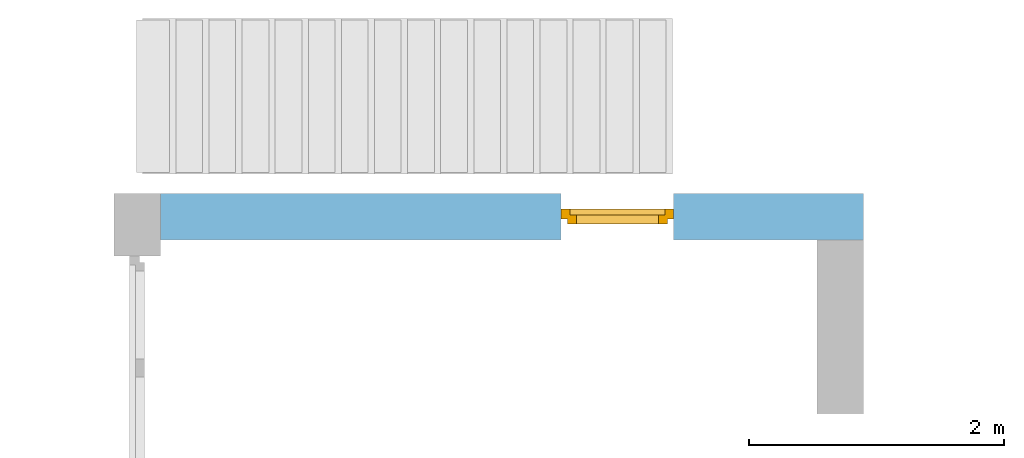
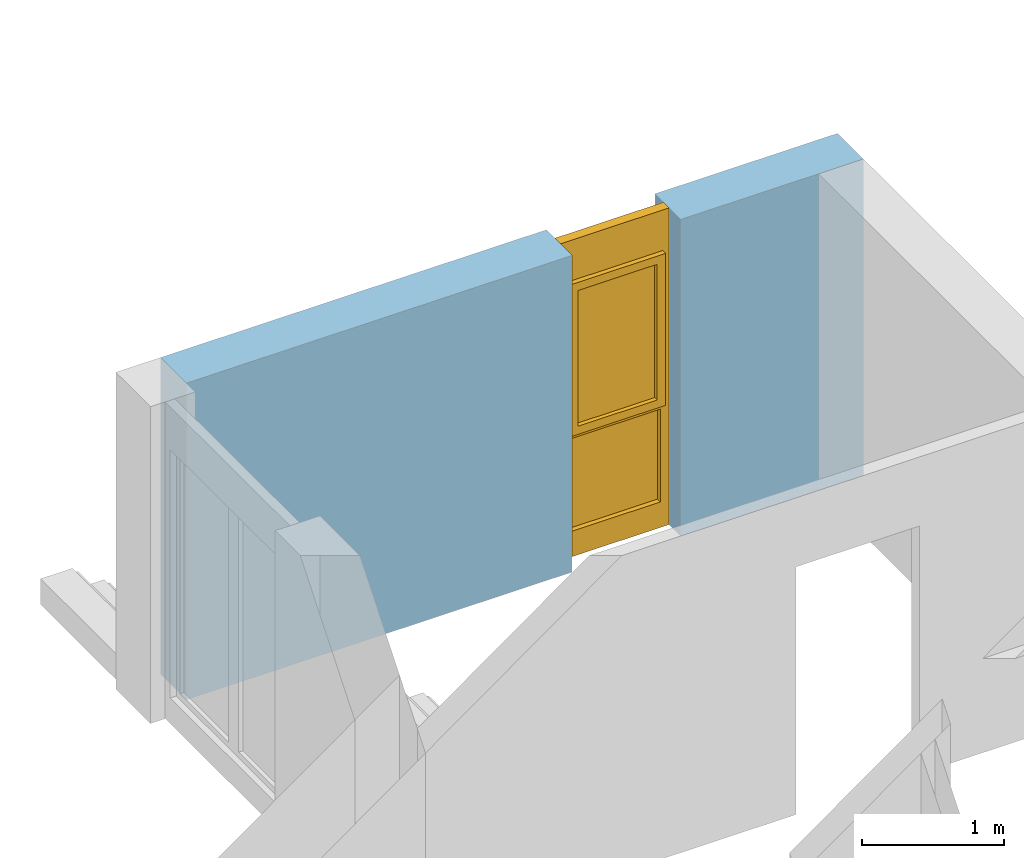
# One storey, part 21 of 41: 1 window, 1 opening, plus 1 element that does not belong to this part.
"""IFC2X3 building model written with IfcOpenShell, lengths in millimetres."""

from ifc_helpers import new_model, entity, si_unit, converted_unit, frame, frame_2d, origin, origin_with_axes, place, context, subcontext, project, spatial, rectangle, extrude, faceted_brep, material, layer, layer_set, layer_usage, type_object, element, fill, save


model = new_model("IFC2X3")

# Units and contexts
model_context = context("Model", 3, precision=1e-05, world=origin())
body_context = subcontext(model_context, "Body", "Model", "MODEL_VIEW")
ifc_project = project(units=[si_unit("LENGTHUNIT", "METRE", prefix="MILLI"), converted_unit("PLANEANGLEUNIT", "DEGREE", entity("IfcPlaneAngleMeasure", 0.0174532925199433), si_unit("PLANEANGLEUNIT", "RADIAN"), dimensions=[0, 0, 0, 0, 0, 0, 0]), si_unit("AREAUNIT", "SQUARE_METRE"), si_unit("VOLUMEUNIT", "CUBIC_METRE")], contexts=[model_context])

# Building, storey
building_placement = place(None, origin())
building = spatial("IfcBuilding", under=ifc_project, at=building_placement, Name="Gebäude", CompositionType="ELEMENT")
storey_placement = place(building_placement, frame((0.0, 0.0, -200.0), z_axis=(0.0, 0.0, 1.0), x_axis=(1.0, 0.0, 0.0)))
storey = spatial("IfcBuildingStorey", under=building, at=storey_placement, Name="EG.- Grundriss", CompositionType="ELEMENT", Elevation=-200.0)

# Wall, opening, window
ifc_material_1 = material(Name="Poroton")
ifc_layer = layer(ifc_material_1, 365.0000000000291)
ifc_layer_set = layer_set([ifc_layer])
ifc_layer_usage = layer_usage(ifc_layer_set, "AXIS2", "POSITIVE", 0.0)
wall_placement = place(storey_placement, frame((154222.7928067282, 139284.8877324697, 0.0), z_axis=(0.0, 0.0, 1.0), x_axis=(0.9999999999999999, 0.0, 0.0)))
wall = element("IfcWallStandardCase", 1, at=wall_placement, inside=storey, material=ifc_layer_usage, Name="<Unnamed Element>", context=body_context, shape_type="SweptSolid", body=[
    extrude(rectangle(XDim=5520.000000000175, YDim=365.0000000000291, at=frame_2d((2760.000000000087, 182.5000000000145), x_axis=(1.0, 0.0))), origin_with_axes(), (0.0, 0.0, 1.0), 2730.0),
])
opening_placement = place(wall_placement, frame((3145.000000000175, 0.0, 0.0), z_axis=(0.0, 1.0, 0.0), x_axis=(0.0, 0.0, 1.0)))
opening = element("IfcOpeningElement", 2, at=opening_placement, cuts=wall, Name="Fensteröffnung", ObjectType="Opening", context=body_context, shape_type="SweptSolid", body=[
    extrude(rectangle(XDim=2730.0, YDim=885.0, at=frame_2d((1365.0, 442.5), x_axis=(1.0, 0.0))), origin_with_axes(), (0.0, 0.0, 1.0), 365.0000000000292),
])
ifc_material_2 = material()
window_style = type_object("IfcWindowStyle", Name="Fenster", ConstructionType="NOTDEFINED", OperationType="USERDEFINED", ParameterTakesPrecedence=False, Sizeable=False)
window_placement = place(opening_placement, frame((0.0, 0.0, 0.0), z_axis=(1.0, 0.0, 0.0), x_axis=(0.0, 1.0, 0.0)))
window = element("IfcWindow", 3, at=window_placement, inside=storey, type_object=window_style, material=ifc_material_2, Name="Fenster", OverallHeight=2730.0, OverallWidth=885.0, context=body_context, shape_type="Brep", body=[
    faceted_brep([(885.0, 164.999999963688, 2730.0), (885.0, 164.9999999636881, -2.449293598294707e-15), (815.0000000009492, 164.9999999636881, -2.449293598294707e-15), (815.0000000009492, 164.999999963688, 2730.0), (885.0, 244.9999999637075, 2.449293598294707e-15), (885.0, 244.9999999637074, 2730.0), (815.0000000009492, 244.9999999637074, 2730.0), (815.0000000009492, 244.9999999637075, 2.449293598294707e-15), (885.0, 164.9999999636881, -2.449293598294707e-15), (885.0, 164.999999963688, 2730.0), (885.0, 244.9999999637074, 2730.0), (885.0, 244.9999999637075, 2.449293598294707e-15), (815.0000000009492, 164.9999999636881, -2.449293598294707e-15), (885.0, 164.9999999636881, -2.449293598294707e-15), (885.0, 244.9999999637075, 2.449293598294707e-15), (815.0000000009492, 244.9999999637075, 2.449293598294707e-15), (815.0000000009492, 164.999999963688, 2730.0), (815.0000000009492, 164.9999999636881, -2.449293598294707e-15), (815.0000000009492, 244.9999999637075, 2.449293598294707e-15), (815.0000000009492, 244.9999999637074, 2730.0), (885.0, 164.999999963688, 2730.0), (815.0000000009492, 164.999999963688, 2730.0), (815.0000000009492, 244.9999999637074, 2730.0), (885.0, 244.9999999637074, 2730.0)], [[[0, 1, 2, 3]], [[4, 5, 6, 7]], [[8, 9, 10, 11]], [[12, 13, 14, 15]], [[16, 17, 18, 19]], [[20, 21, 22, 23]]], orient=[[False], [False], [False], [False], [False], [False]]),
    faceted_brep([(69.99999999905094, 164.9999999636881, 2730.0), (69.99999999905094, 164.9999999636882, -2.449293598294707e-15), (1.13686837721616e-13, 164.9999999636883, -2.449293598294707e-15), (1.13686837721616e-13, 164.9999999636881, 2730.0), (69.99999999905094, 244.9999999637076, 2.449293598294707e-15), (69.99999999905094, 244.9999999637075, 2730.0), (1.13686837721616e-13, 244.9999999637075, 2730.0), (1.13686837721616e-13, 244.9999999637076, 2.449293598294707e-15), (69.99999999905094, 164.9999999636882, -2.449293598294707e-15), (69.99999999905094, 164.9999999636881, 2730.0), (69.99999999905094, 244.9999999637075, 2730.0), (69.99999999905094, 244.9999999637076, 2.449293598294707e-15), (1.13686837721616e-13, 164.9999999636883, -2.449293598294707e-15), (69.99999999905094, 164.9999999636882, -2.449293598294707e-15), (69.99999999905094, 244.9999999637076, 2.449293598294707e-15), (1.13686837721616e-13, 244.9999999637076, 2.449293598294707e-15), (1.13686837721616e-13, 164.9999999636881, 2730.0), (1.13686837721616e-13, 164.9999999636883, -2.449293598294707e-15), (1.13686837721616e-13, 244.9999999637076, 2.449293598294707e-15), (1.13686837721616e-13, 244.9999999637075, 2730.0), (69.99999999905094, 164.9999999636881, 2730.0), (1.13686837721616e-13, 164.9999999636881, 2730.0), (1.13686837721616e-13, 244.9999999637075, 2730.0), (69.99999999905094, 244.9999999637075, 2730.0)], [[[0, 1, 2, 3]], [[4, 5, 6, 7]], [[8, 9, 10, 11]], [[12, 13, 14, 15]], [[16, 17, 18, 19]], [[20, 21, 22, 23]]], orient=[[False], [False], [False], [False], [False], [False]]),
    faceted_brep([(815.0000000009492, 164.9999999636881, 220.0), (815.0000000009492, 164.9999999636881, -2.449293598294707e-15), (69.99999999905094, 164.9999999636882, -2.449293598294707e-15), (69.99999999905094, 164.9999999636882, 220.0), (815.0000000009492, 244.9999999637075, 2.449293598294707e-15), (815.0000000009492, 244.9999999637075, 220.0), (69.99999999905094, 244.9999999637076, 220.0), (69.99999999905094, 244.9999999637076, 2.449293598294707e-15), (815.0000000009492, 164.9999999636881, -2.449293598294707e-15), (815.0000000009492, 164.9999999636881, 220.0), (815.0000000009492, 244.9999999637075, 220.0), (815.0000000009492, 244.9999999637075, 2.449293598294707e-15), (69.99999999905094, 164.9999999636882, -2.449293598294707e-15), (815.0000000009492, 164.9999999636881, -2.449293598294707e-15), (815.0000000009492, 244.9999999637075, 2.449293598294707e-15), (69.99999999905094, 244.9999999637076, 2.449293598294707e-15), (69.99999999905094, 164.9999999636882, 220.0), (69.99999999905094, 164.9999999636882, -2.449293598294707e-15), (69.99999999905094, 244.9999999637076, 2.449293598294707e-15), (69.99999999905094, 244.9999999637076, 220.0), (815.0000000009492, 164.9999999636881, 220.0), (69.99999999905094, 164.9999999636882, 220.0), (69.99999999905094, 244.9999999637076, 220.0), (815.0000000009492, 244.9999999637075, 220.0)], [[[0, 1, 2, 3]], [[4, 5, 6, 7]], [[8, 9, 10, 11]], [[12, 13, 14, 15]], [[16, 17, 18, 19]], [[20, 21, 22, 23]]], orient=[[False], [False], [False], [False], [False], [False]]),
    faceted_brep([(815.0000000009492, 164.999999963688, 2730.0), (815.0000000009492, 164.999999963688, 2360.0), (69.99999999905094, 164.9999999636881, 2360.0), (69.99999999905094, 164.9999999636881, 2730.0), (815.0000000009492, 244.9999999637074, 2360.0), (815.0000000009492, 244.9999999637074, 2730.0), (69.99999999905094, 244.9999999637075, 2730.0), (69.99999999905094, 244.9999999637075, 2360.0), (815.0000000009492, 164.999999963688, 2360.0), (815.0000000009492, 164.999999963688, 2730.0), (815.0000000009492, 244.9999999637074, 2730.0), (815.0000000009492, 244.9999999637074, 2360.0), (69.99999999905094, 164.9999999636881, 2360.0), (815.0000000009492, 164.999999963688, 2360.0), (815.0000000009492, 244.9999999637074, 2360.0), (69.99999999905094, 244.9999999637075, 2360.0), (69.99999999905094, 164.9999999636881, 2730.0), (69.99999999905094, 164.9999999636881, 2360.0), (69.99999999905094, 244.9999999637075, 2360.0), (69.99999999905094, 244.9999999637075, 2730.0), (815.0000000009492, 164.999999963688, 2730.0), (69.99999999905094, 164.9999999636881, 2730.0), (69.99999999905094, 244.9999999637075, 2730.0), (815.0000000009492, 244.9999999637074, 2730.0)], [[[0, 1, 2, 3]], [[4, 5, 6, 7]], [[8, 9, 10, 11]], [[12, 13, 14, 15]], [[16, 17, 18, 19]], [[20, 21, 22, 23]]], orient=[[False], [False], [False], [False], [False], [False]]),
    faceted_brep([(815.0000000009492, 164.9999999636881, 1090.0), (815.0000000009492, 164.9999999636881, 1020.0), (69.99999999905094, 164.9999999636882, 1020.0), (69.99999999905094, 164.9999999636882, 1090.0), (815.0000000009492, 244.9999999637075, 1020.0), (815.0000000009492, 244.9999999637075, 1090.0), (69.99999999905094, 244.9999999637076, 1090.0), (69.99999999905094, 244.9999999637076, 1020.0), (815.0000000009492, 164.9999999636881, 1020.0), (815.0000000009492, 164.9999999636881, 1090.0), (815.0000000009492, 244.9999999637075, 1090.0), (815.0000000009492, 244.9999999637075, 1020.0), (69.99999999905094, 164.9999999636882, 1020.0), (815.0000000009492, 164.9999999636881, 1020.0), (815.0000000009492, 244.9999999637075, 1020.0), (69.99999999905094, 244.9999999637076, 1020.0), (69.99999999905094, 164.9999999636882, 1090.0), (69.99999999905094, 164.9999999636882, 1020.0), (69.99999999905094, 244.9999999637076, 1020.0), (69.99999999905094, 244.9999999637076, 1090.0), (815.0000000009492, 164.9999999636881, 1090.0), (69.99999999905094, 164.9999999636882, 1090.0), (69.99999999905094, 244.9999999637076, 1090.0), (815.0000000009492, 244.9999999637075, 1090.0)], [[[0, 1, 2, 3]], [[4, 5, 6, 7]], [[8, 9, 10, 11]], [[12, 13, 14, 15]], [[16, 17, 18, 19]], [[20, 21, 22, 23]]], orient=[[False], [False], [False], [False], [False], [False]]),
    faceted_brep([(815.0000000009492, 204.9999999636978, 220.0), (69.99999999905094, 204.9999999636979, 220.0), (69.99999999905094, 204.9999999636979, 1020.0), (815.0000000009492, 204.9999999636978, 1020.0), (815.0000000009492, 205.9999999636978, 220.0), (815.0000000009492, 205.9999999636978, 1020.0), (69.99999999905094, 205.9999999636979, 1020.0), (69.99999999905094, 205.9999999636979, 220.0), (815.0000000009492, 204.9999999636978, 220.0), (815.0000000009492, 205.9999999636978, 220.0), (69.99999999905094, 205.9999999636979, 220.0), (69.99999999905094, 204.9999999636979, 220.0), (69.99999999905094, 204.9999999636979, 220.0), (69.99999999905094, 205.9999999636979, 220.0), (69.99999999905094, 205.9999999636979, 1020.0), (69.99999999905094, 204.9999999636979, 1020.0), (69.99999999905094, 204.9999999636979, 1020.0), (69.99999999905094, 205.9999999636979, 1020.0), (815.0000000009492, 205.9999999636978, 1020.0), (815.0000000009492, 204.9999999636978, 1020.0), (815.0000000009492, 204.9999999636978, 1020.0), (815.0000000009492, 205.9999999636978, 1020.0), (815.0000000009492, 205.9999999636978, 220.0), (815.0000000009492, 204.9999999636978, 220.0)], [[[0, 1, 2, 3]], [[4, 5, 6, 7]], [[8, 9, 10, 11]], [[12, 13, 14, 15]], [[16, 17, 18, 19]], [[20, 21, 22, 23]]], orient=[[False], [False], [False], [False], [False], [False]]),
    faceted_brep([(835.0000000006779, 124.9999999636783, 2380.0), (835.0000000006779, 124.9999999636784, 1070.0), (765.0000000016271, 124.9999999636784, 1070.0), (765.0000000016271, 124.9999999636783, 2380.0), (835.0000000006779, 194.9999999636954, 1070.0), (835.0000000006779, 194.9999999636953, 2380.0), (765.0000000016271, 194.9999999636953, 2380.0), (765.0000000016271, 194.9999999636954, 1070.0), (835.0000000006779, 124.9999999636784, 1070.0), (835.0000000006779, 124.9999999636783, 2380.0), (835.0000000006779, 194.9999999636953, 2380.0), (835.0000000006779, 194.9999999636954, 1070.0), (765.0000000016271, 124.9999999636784, 1070.0), (835.0000000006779, 124.9999999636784, 1070.0), (835.0000000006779, 194.9999999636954, 1070.0), (765.0000000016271, 194.9999999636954, 1070.0), (765.0000000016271, 124.9999999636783, 2380.0), (765.0000000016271, 124.9999999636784, 1070.0), (765.0000000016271, 194.9999999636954, 1070.0), (765.0000000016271, 194.9999999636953, 2380.0), (835.0000000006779, 124.9999999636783, 2380.0), (765.0000000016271, 124.9999999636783, 2380.0), (765.0000000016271, 194.9999999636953, 2380.0), (835.0000000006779, 194.9999999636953, 2380.0)], [[[0, 1, 2, 3]], [[4, 5, 6, 7]], [[8, 9, 10, 11]], [[12, 13, 14, 15]], [[16, 17, 18, 19]], [[20, 21, 22, 23]]], orient=[[False], [False], [False], [False], [False], [False]]),
    faceted_brep([(119.999999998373, 124.9999999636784, 2380.0), (119.999999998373, 124.9999999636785, 1070.0), (49.9999999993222, 124.9999999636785, 1070.0), (49.9999999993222, 124.9999999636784, 2380.0), (119.999999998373, 194.9999999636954, 1070.0), (119.999999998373, 194.9999999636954, 2380.0), (49.9999999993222, 194.9999999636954, 2380.0), (49.9999999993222, 194.9999999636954, 1070.0), (119.999999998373, 124.9999999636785, 1070.0), (119.999999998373, 124.9999999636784, 2380.0), (119.999999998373, 194.9999999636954, 2380.0), (119.999999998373, 194.9999999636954, 1070.0), (49.9999999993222, 124.9999999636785, 1070.0), (119.999999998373, 124.9999999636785, 1070.0), (119.999999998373, 194.9999999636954, 1070.0), (49.9999999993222, 194.9999999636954, 1070.0), (49.9999999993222, 124.9999999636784, 2380.0), (49.9999999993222, 124.9999999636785, 1070.0), (49.9999999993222, 194.9999999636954, 1070.0), (49.9999999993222, 194.9999999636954, 2380.0), (119.999999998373, 124.9999999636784, 2380.0), (49.9999999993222, 124.9999999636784, 2380.0), (49.9999999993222, 194.9999999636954, 2380.0), (119.999999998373, 194.9999999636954, 2380.0)], [[[0, 1, 2, 3]], [[4, 5, 6, 7]], [[8, 9, 10, 11]], [[12, 13, 14, 15]], [[16, 17, 18, 19]], [[20, 21, 22, 23]]], orient=[[False], [False], [False], [False], [False], [False]]),
    faceted_brep([(765.0000000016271, 124.9999999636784, 1140.0), (765.0000000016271, 124.9999999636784, 1070.0), (119.999999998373, 124.9999999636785, 1070.0), (119.999999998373, 124.9999999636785, 1140.0), (765.0000000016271, 194.9999999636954, 1070.0), (765.0000000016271, 194.9999999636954, 1140.0), (119.999999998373, 194.9999999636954, 1140.0), (119.999999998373, 194.9999999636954, 1070.0), (765.0000000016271, 124.9999999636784, 1070.0), (765.0000000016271, 124.9999999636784, 1140.0), (765.0000000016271, 194.9999999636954, 1140.0), (765.0000000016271, 194.9999999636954, 1070.0), (119.999999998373, 124.9999999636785, 1070.0), (765.0000000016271, 124.9999999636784, 1070.0), (765.0000000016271, 194.9999999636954, 1070.0), (119.999999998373, 194.9999999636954, 1070.0), (119.999999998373, 124.9999999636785, 1140.0), (119.999999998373, 124.9999999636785, 1070.0), (119.999999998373, 194.9999999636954, 1070.0), (119.999999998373, 194.9999999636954, 1140.0), (765.0000000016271, 124.9999999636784, 1140.0), (119.999999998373, 124.9999999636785, 1140.0), (119.999999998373, 194.9999999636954, 1140.0), (765.0000000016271, 194.9999999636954, 1140.0)], [[[0, 1, 2, 3]], [[4, 5, 6, 7]], [[8, 9, 10, 11]], [[12, 13, 14, 15]], [[16, 17, 18, 19]], [[20, 21, 22, 23]]], orient=[[False], [False], [False], [False], [False], [False]]),
    faceted_brep([(765.0000000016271, 124.9999999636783, 2380.0), (765.0000000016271, 124.9999999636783, 2310.0), (119.999999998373, 124.9999999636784, 2310.0), (119.999999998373, 124.9999999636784, 2380.0), (765.0000000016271, 194.9999999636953, 2310.0), (765.0000000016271, 194.9999999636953, 2380.0), (119.999999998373, 194.9999999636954, 2380.0), (119.999999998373, 194.9999999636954, 2310.0), (765.0000000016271, 124.9999999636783, 2310.0), (765.0000000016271, 124.9999999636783, 2380.0), (765.0000000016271, 194.9999999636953, 2380.0), (765.0000000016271, 194.9999999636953, 2310.0), (119.999999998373, 124.9999999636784, 2310.0), (765.0000000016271, 124.9999999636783, 2310.0), (765.0000000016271, 194.9999999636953, 2310.0), (119.999999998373, 194.9999999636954, 2310.0), (119.999999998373, 124.9999999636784, 2380.0), (119.999999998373, 124.9999999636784, 2310.0), (119.999999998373, 194.9999999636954, 2310.0), (119.999999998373, 194.9999999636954, 2380.0), (765.0000000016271, 124.9999999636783, 2380.0), (119.999999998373, 124.9999999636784, 2380.0), (119.999999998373, 194.9999999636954, 2380.0), (765.0000000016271, 194.9999999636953, 2380.0)], [[[0, 1, 2, 3]], [[4, 5, 6, 7]], [[8, 9, 10, 11]], [[12, 13, 14, 15]], [[16, 17, 18, 19]], [[20, 21, 22, 23]]], orient=[[False], [False], [False], [False], [False], [False]]),
    faceted_brep([(765.0000000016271, 159.9999999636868, 1140.0), (119.999999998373, 159.999999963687, 1140.0), (119.999999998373, 159.9999999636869, 2310.0), (765.0000000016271, 159.9999999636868, 2310.0), (765.0000000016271, 160.9999999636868, 1140.0), (765.0000000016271, 160.9999999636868, 2310.0), (119.999999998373, 160.9999999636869, 2310.0), (119.999999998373, 160.999999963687, 1140.0), (765.0000000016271, 159.9999999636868, 1140.0), (765.0000000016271, 160.9999999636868, 1140.0), (119.999999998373, 160.999999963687, 1140.0), (119.999999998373, 159.999999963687, 1140.0), (119.999999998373, 159.999999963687, 1140.0), (119.999999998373, 160.999999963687, 1140.0), (119.999999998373, 160.9999999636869, 2310.0), (119.999999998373, 159.9999999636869, 2310.0), (119.999999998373, 159.9999999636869, 2310.0), (119.999999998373, 160.9999999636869, 2310.0), (765.0000000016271, 160.9999999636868, 2310.0), (765.0000000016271, 159.9999999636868, 2310.0), (765.0000000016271, 159.9999999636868, 2310.0), (765.0000000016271, 160.9999999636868, 2310.0), (765.0000000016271, 160.9999999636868, 1140.0), (765.0000000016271, 159.9999999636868, 1140.0)], [[[0, 1, 2, 3]], [[4, 5, 6, 7]], [[8, 9, 10, 11]], [[12, 13, 14, 15]], [[16, 17, 18, 19]], [[20, 21, 22, 23]]], orient=[[False], [False], [False], [False], [False], [False]]),
])
fill(opening, window)

save(model, "model.ifc")
